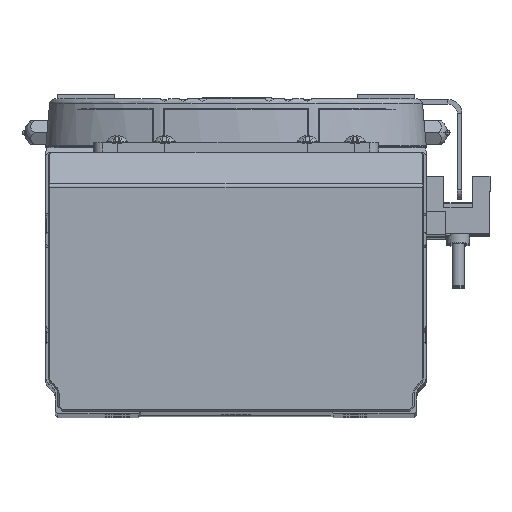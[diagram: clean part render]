
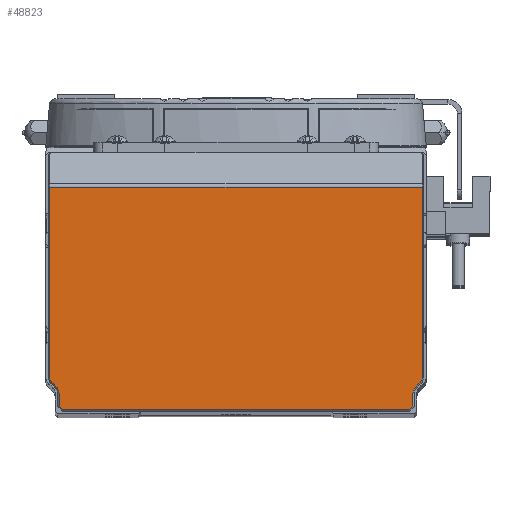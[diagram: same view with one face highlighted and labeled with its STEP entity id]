
A CAD part, top view. The second image highlights one B-rep face of the part: STEP entity #48823.
In plain terms, the highlighted planar face has unit normal (0, 0, 1).
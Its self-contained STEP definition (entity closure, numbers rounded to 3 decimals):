
#1903 = CARTESIAN_POINT ( 'NONE',  ( -37.5, -14.172, 1010. ) ) ;
#3322 = CARTESIAN_POINT ( 'NONE',  ( 38.702, -15.374, 1010. ) ) ;
#4667 = CARTESIAN_POINT ( 'NONE',  ( 39.2, 9., 1010. ) ) ;
#6762 = FACE_OUTER_BOUND ( 'NONE', #147031, .T. ) ;
#8334 = CARTESIAN_POINT ( 'NONE',  ( -39.5, 25.586, 1010. ) ) ;
#8946 = CARTESIAN_POINT ( 'NONE',  ( -39.5, -17.828, 1010. ) ) ;
#10563 = LINE ( 'NONE', #55909, #96444 ) ;
#11650 = VECTOR ( 'NONE', #109094, 1000. ) ;
#12627 = VECTOR ( 'NONE', #62652, 1000. ) ;
#13375 = DIRECTION ( 'NONE',  ( -1., 0., 0. ) ) ;
#13924 = ORIENTED_EDGE ( 'NONE', *, *, #89348, .T. ) ;
#15112 = ORIENTED_EDGE ( 'NONE', *, *, #69520, .T. ) ;
#16852 = VERTEX_POINT ( 'NONE', #108711 ) ;
#17308 = CARTESIAN_POINT ( 'NONE',  ( 0., -21.2, 1010. ) ) ;
#17611 = DIRECTION ( 'NONE',  ( -1., 0., 0. ) ) ;
#18408 = LINE ( 'NONE', #63742, #11650 ) ;
#18623 = VECTOR ( 'NONE', #141197, 1000. ) ;
#18725 = VERTEX_POINT ( 'NONE', #39295 ) ;
#19242 = VERTEX_POINT ( 'NONE', #22506 ) ;
#21431 = AXIS2_PLACEMENT_3D ( 'NONE', #8946, #54272, #99620 ) ;
#22506 = CARTESIAN_POINT ( 'NONE',  ( -37.2, -20.376, 1010. ) ) ;
#23622 = ORIENTED_EDGE ( 'NONE', *, *, #25791, .T. ) ;
#25791 = EDGE_CURVE ( 'NONE', #138681, #84796, #106521, .T. ) ;
#26311 = CARTESIAN_POINT ( 'NONE',  ( -31.538, -22.538, 1010. ) ) ;
#26624 = EDGE_CURVE ( 'NONE', #105195, #85962, #10563, .T. ) ;
#30139 = VECTOR ( 'NONE', #49992, 1000. ) ;
#33715 = CIRCLE ( 'NONE', #52720, 1.7 ) ;
#33747 = ORIENTED_EDGE ( 'NONE', *, *, #45812, .T. ) ;
#37996 = CARTESIAN_POINT ( 'NONE',  ( 39.2, 25.586, 1010. ) ) ;
#38972 = EDGE_CURVE ( 'NONE', #19242, #132010, #50998, .T. ) ;
#39295 = CARTESIAN_POINT ( 'NONE',  ( -38.702, -15.374, 1010. ) ) ;
#39973 = LINE ( 'NONE', #85353, #100686 ) ;
#40927 = DIRECTION ( 'NONE',  ( -1., 0., 0. ) ) ;
#41072 = CARTESIAN_POINT ( 'NONE',  ( 37.2, 9., 1010. ) ) ;
#42618 = CARTESIAN_POINT ( 'NONE',  ( 39.2, -14.172, 1010. ) ) ;
#42956 = ORIENTED_EDGE ( 'NONE', *, *, #62020, .T. ) ;
#45812 = EDGE_CURVE ( 'NONE', #85962, #78495, #142930, .T. ) ;
#47233 = DIRECTION ( 'NONE',  ( 0., 0., 1. ) ) ;
#47710 = VERTEX_POINT ( 'NONE', #92869 ) ;
#48823 = ADVANCED_FACE ( 'NONE', ( #6762 ), #52081, .F. ) ;
#49992 = DIRECTION ( 'NONE',  ( 0., 1., 0. ) ) ;
#50467 = LINE ( 'NONE', #95840, #18623 ) ;
#50998 = LINE ( 'NONE', #96366, #127406 ) ;
#52081 = PLANE ( 'NONE',  #77108 ) ;
#52720 = AXIS2_PLACEMENT_3D ( 'NONE', #1903, #47233, #92604 ) ;
#53668 = DIRECTION ( 'NONE',  ( -1., 0., 0. ) ) ;
#54062 = CIRCLE ( 'NONE', #137166, 2.3 ) ;
#54272 = DIRECTION ( 'NONE',  ( 0., 0., -1. ) ) ;
#55377 = ORIENTED_EDGE ( 'NONE', *, *, #26624, .T. ) ;
#55909 = CARTESIAN_POINT ( 'NONE',  ( 37.288, -20.288, 1010. ) ) ;
#60034 = CIRCLE ( 'NONE', #143109, 1.7 ) ;
#62020 = EDGE_CURVE ( 'NONE', #83711, #18725, #33715, .T. ) ;
#62652 = DIRECTION ( 'NONE',  ( 1., 0., 0. ) ) ;
#63742 = CARTESIAN_POINT ( 'NONE',  ( -37.2, 9., 1010. ) ) ;
#69520 = EDGE_CURVE ( 'NONE', #78495, #120093, #54062, .T. ) ;
#69902 = CARTESIAN_POINT ( 'NONE',  ( 37.5, -14.172, 1010. ) ) ;
#71684 = DIRECTION ( 'NONE',  ( 0.707, -0.707, 0. ) ) ;
#74110 = CARTESIAN_POINT ( 'NONE',  ( 39.5, -17.828, 1010. ) ) ;
#75418 = EDGE_CURVE ( 'NONE', #16852, #89568, #85549, .T. ) ;
#77108 = AXIS2_PLACEMENT_3D ( 'NONE', #97422, #142787, #40927 ) ;
#78495 = VERTEX_POINT ( 'NONE', #82977 ) ;
#82977 = CARTESIAN_POINT ( 'NONE',  ( 37.2, -17.828, 1010. ) ) ;
#83711 = VERTEX_POINT ( 'NONE', #108814 ) ;
#84796 = VERTEX_POINT ( 'NONE', #37996 ) ;
#85050 = CARTESIAN_POINT ( 'NONE',  ( 37.874, -16.202, 1010. ) ) ;
#85353 = CARTESIAN_POINT ( 'NONE',  ( -39.2, 9., 1010. ) ) ;
#85549 = CIRCLE ( 'NONE', #21431, 2.3 ) ;
#85962 = VERTEX_POINT ( 'NONE', #92006 ) ;
#86453 = DIRECTION ( 'NONE',  ( 0., 1., 0. ) ) ;
#89348 = EDGE_CURVE ( 'NONE', #120093, #118322, #50467, .T. ) ;
#89568 = VERTEX_POINT ( 'NONE', #124766 ) ;
#90022 = EDGE_CURVE ( 'NONE', #84796, #47710, #110204, .T. ) ;
#90419 = ORIENTED_EDGE ( 'NONE', *, *, #115387, .T. ) ;
#92006 = CARTESIAN_POINT ( 'NONE',  ( 37.2, -20.376, 1010. ) ) ;
#92604 = DIRECTION ( 'NONE',  ( -1., 0., 0. ) ) ;
#92869 = CARTESIAN_POINT ( 'NONE',  ( -39.2, 25.586, 1010. ) ) ;
#93980 = LINE ( 'NONE', #26311, #120041 ) ;
#95827 = ORIENTED_EDGE ( 'NONE', *, *, #122173, .T. ) ;
#95840 = CARTESIAN_POINT ( 'NONE',  ( 31.538, -22.538, 1010. ) ) ;
#96366 = CARTESIAN_POINT ( 'NONE',  ( -36.288, -21.288, 1010. ) ) ;
#96444 = VECTOR ( 'NONE', #101267, 1000. ) ;
#97422 = CARTESIAN_POINT ( 'NONE',  ( 0., 9., 1010. ) ) ;
#97870 = ORIENTED_EDGE ( 'NONE', *, *, #38972, .T. ) ;
#99620 = DIRECTION ( 'NONE',  ( -1., 0., 0. ) ) ;
#100686 = VECTOR ( 'NONE', #130698, 1000. ) ;
#101267 = DIRECTION ( 'NONE',  ( 0.707, 0.707, 0. ) ) ;
#102669 = ORIENTED_EDGE ( 'NONE', *, *, #104757, .T. ) ;
#103736 = EDGE_CURVE ( 'NONE', #132010, #105195, #119167, .T. ) ;
#104757 = EDGE_CURVE ( 'NONE', #47710, #83711, #39973, .T. ) ;
#105195 = VERTEX_POINT ( 'NONE', #145858 ) ;
#106521 = LINE ( 'NONE', #4667, #30139 ) ;
#108711 = CARTESIAN_POINT ( 'NONE',  ( -37.874, -16.202, 1010. ) ) ;
#108814 = CARTESIAN_POINT ( 'NONE',  ( -39.2, -14.172, 1010. ) ) ;
#109094 = DIRECTION ( 'NONE',  ( 0., -1., 0. ) ) ;
#110204 = LINE ( 'NONE', #8334, #137465 ) ;
#111113 = ORIENTED_EDGE ( 'NONE', *, *, #90022, .T. ) ;
#115244 = DIRECTION ( 'NONE',  ( 0., 0., 1. ) ) ;
#115387 = EDGE_CURVE ( 'NONE', #18725, #16852, #93980, .T. ) ;
#118322 = VERTEX_POINT ( 'NONE', #3322 ) ;
#119167 = LINE ( 'NONE', #17308, #12627 ) ;
#119459 = DIRECTION ( 'NONE',  ( 0., 0., -1. ) ) ;
#120041 = VECTOR ( 'NONE', #71684, 1000. ) ;
#120093 = VERTEX_POINT ( 'NONE', #85050 ) ;
#122173 = EDGE_CURVE ( 'NONE', #118322, #138681, #60034, .T. ) ;
#123138 = ORIENTED_EDGE ( 'NONE', *, *, #75418, .T. ) ;
#124766 = CARTESIAN_POINT ( 'NONE',  ( -37.2, -17.828, 1010. ) ) ;
#127406 = VECTOR ( 'NONE', #141728, 1000. ) ;
#128016 = ORIENTED_EDGE ( 'NONE', *, *, #132857, .T. ) ;
#130698 = DIRECTION ( 'NONE',  ( 0., -1., 0. ) ) ;
#132010 = VERTEX_POINT ( 'NONE', #133946 ) ;
#132857 = EDGE_CURVE ( 'NONE', #89568, #19242, #18408, .T. ) ;
#133946 = CARTESIAN_POINT ( 'NONE',  ( -36.376, -21.2, 1010. ) ) ;
#137166 = AXIS2_PLACEMENT_3D ( 'NONE', #74110, #119459, #17611 ) ;
#137465 = VECTOR ( 'NONE', #53668, 1000. ) ;
#138681 = VERTEX_POINT ( 'NONE', #42618 ) ;
#141197 = DIRECTION ( 'NONE',  ( 0.707, 0.707, 0. ) ) ;
#141728 = DIRECTION ( 'NONE',  ( 0.707, -0.707, 0. ) ) ;
#142787 = DIRECTION ( 'NONE',  ( 0., 0., -1. ) ) ;
#142930 = LINE ( 'NONE', #41072, #145247 ) ;
#143109 = AXIS2_PLACEMENT_3D ( 'NONE', #69902, #115244, #13375 ) ;
#145247 = VECTOR ( 'NONE', #86453, 1000. ) ;
#145858 = CARTESIAN_POINT ( 'NONE',  ( 36.376, -21.2, 1010. ) ) ;
#146020 = ORIENTED_EDGE ( 'NONE', *, *, #103736, .T. ) ;
#147031 = EDGE_LOOP ( 'NONE', ( #95827, #23622, #111113, #102669, #42956, #90419, #123138, #128016, #97870, #146020, #55377, #33747, #15112, #13924 ) ) ;
